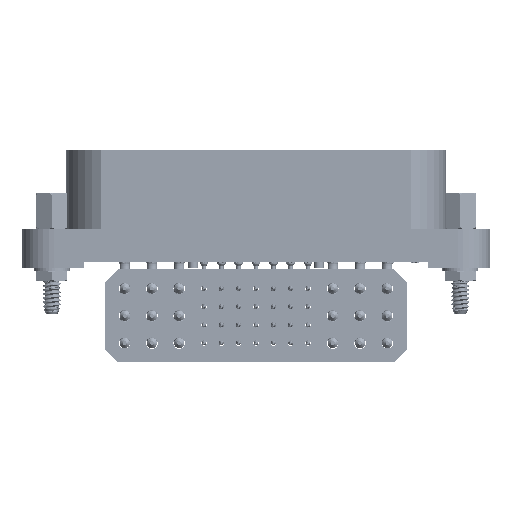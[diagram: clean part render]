
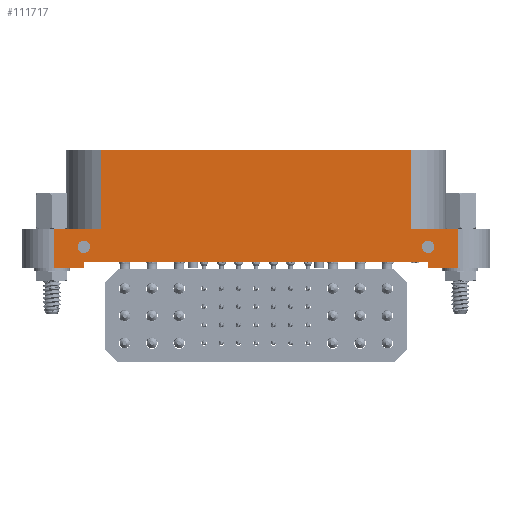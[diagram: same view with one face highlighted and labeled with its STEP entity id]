
A CAD part, front view. The second image highlights one B-rep face of the part: STEP entity #111717.
In plain terms, the highlighted planar face has unit normal (0, -1, 0).
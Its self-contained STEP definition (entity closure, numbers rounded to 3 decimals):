
#2147 = VERTEX_POINT ( 'NONE', #47684 ) ;
#2468 = EDGE_CURVE ( 'NONE', #82340, #2147, #64269, .T. ) ;
#2619 = DIRECTION ( 'NONE',  ( 0., -1., 0. ) ) ;
#6643 = CARTESIAN_POINT ( 'NONE',  ( -26.8, -8.395, -3.295 ) ) ;
#9011 = FACE_OUTER_BOUND ( 'NONE', #93805, .T. ) ;
#11453 = VERTEX_POINT ( 'NONE', #17099 ) ;
#11501 = VERTEX_POINT ( 'NONE', #142850 ) ;
#14539 = VERTEX_POINT ( 'NONE', #92914 ) ;
#14611 = EDGE_CURVE ( 'NONE', #143715, #14539, #138679, .T. ) ;
#17099 = CARTESIAN_POINT ( 'NONE',  ( -24.134, -8.395, 0.47 ) ) ;
#17186 = VECTOR ( 'NONE', #133257, 1000. ) ;
#17775 = EDGE_LOOP ( 'NONE', ( #134277, #126442 ) ) ;
#20823 = DIRECTION ( 'NONE',  ( 0., 0., -1. ) ) ;
#25656 = VECTOR ( 'NONE', #116259, 1000. ) ;
#26111 = EDGE_CURVE ( 'NONE', #11501, #11453, #161094, .T. ) ;
#27776 = CARTESIAN_POINT ( 'NONE',  ( -26.75, -8.395, 0. ) ) ;
#28505 = ORIENTED_EDGE ( 'NONE', *, *, #106404, .T. ) ;
#29656 = VERTEX_POINT ( 'NONE', #89713 ) ;
#33102 = ORIENTED_EDGE ( 'NONE', *, *, #181692, .T. ) ;
#35178 = DIRECTION ( 'NONE',  ( 0., 0., -1. ) ) ;
#35663 = ORIENTED_EDGE ( 'NONE', *, *, #115478, .F. ) ;
#36629 = ORIENTED_EDGE ( 'NONE', *, *, #26111, .T. ) ;
#39378 = CARTESIAN_POINT ( 'NONE',  ( 24.134, -8.395, 12.82 ) ) ;
#44529 = LINE ( 'NONE', #165458, #132818 ) ;
#45188 = CARTESIAN_POINT ( 'NONE',  ( 31.43, -8.395, 0.47 ) ) ;
#45453 = VERTEX_POINT ( 'NONE', #164191 ) ;
#47684 = CARTESIAN_POINT ( 'NONE',  ( 24.134, -8.395, 0.47 ) ) ;
#48964 = CARTESIAN_POINT ( 'NONE',  ( 26.75, -8.395, -5.69 ) ) ;
#49579 = LINE ( 'NONE', #95119, #160857 ) ;
#50027 = DIRECTION ( 'NONE',  ( 0., -1., 0. ) ) ;
#50066 = VERTEX_POINT ( 'NONE', #6643 ) ;
#51011 = CARTESIAN_POINT ( 'NONE',  ( -26.8, -8.395, -2.33 ) ) ;
#52207 = DIRECTION ( 'NONE',  ( 1., 0., 0. ) ) ;
#53179 = VECTOR ( 'NONE', #119889, 1000. ) ;
#53358 = VECTOR ( 'NONE', #185329, 1000. ) ;
#54207 = CIRCLE ( 'NONE', #174627, 0.965 ) ;
#57169 = ORIENTED_EDGE ( 'NONE', *, *, #134920, .F. ) ;
#58357 = CARTESIAN_POINT ( 'NONE',  ( 26.8, -8.395, -2.33 ) ) ;
#64269 = LINE ( 'NONE', #154469, #172172 ) ;
#64770 = PLANE ( 'NONE',  #146389 ) ;
#66185 = CARTESIAN_POINT ( 'NONE',  ( 36.43, -8.395, -5.69 ) ) ;
#67139 = DIRECTION ( 'NONE',  ( 1., 0., 0. ) ) ;
#70643 = AXIS2_PLACEMENT_3D ( 'NONE', #155204, #2619, #169074 ) ;
#73694 = ORIENTED_EDGE ( 'NONE', *, *, #191077, .F. ) ;
#74694 = VECTOR ( 'NONE', #67139, 1000. ) ;
#75060 = VERTEX_POINT ( 'NONE', #151173 ) ;
#79848 = VECTOR ( 'NONE', #126615, 1000. ) ;
#82340 = VERTEX_POINT ( 'NONE', #103277 ) ;
#83253 = FACE_BOUND ( 'NONE', #17775, .T. ) ;
#83453 = ORIENTED_EDGE ( 'NONE', *, *, #126288, .F. ) ;
#84168 = CARTESIAN_POINT ( 'NONE',  ( -26.75, -8.395, -5.69 ) ) ;
#84421 = VERTEX_POINT ( 'NONE', #159792 ) ;
#84853 = LINE ( 'NONE', #129488, #109197 ) ;
#85509 = CARTESIAN_POINT ( 'NONE',  ( 26.75, -8.395, 0. ) ) ;
#87542 = ORIENTED_EDGE ( 'NONE', *, *, #156294, .T. ) ;
#89713 = CARTESIAN_POINT ( 'NONE',  ( -26.8, -8.395, -1.365 ) ) ;
#92914 = CARTESIAN_POINT ( 'NONE',  ( 26.8, -8.395, -3.295 ) ) ;
#93679 = VERTEX_POINT ( 'NONE', #45188 ) ;
#93805 = EDGE_LOOP ( 'NONE', ( #139422, #172020, #73694, #153779, #57169, #36629, #83453, #28505, #189052, #113754, #33102, #87542 ) ) ;
#95119 = CARTESIAN_POINT ( 'NONE',  ( -31.43, -8.395, 0. ) ) ;
#101550 = CARTESIAN_POINT ( 'NONE',  ( -24.134, -8.395, 12.82 ) ) ;
#102322 = EDGE_CURVE ( 'NONE', #75060, #133184, #184198, .T. ) ;
#103152 = CARTESIAN_POINT ( 'NONE',  ( 36.43, -8.395, -5.69 ) ) ;
#103277 = CARTESIAN_POINT ( 'NONE',  ( 24.134, -8.395, 12.82 ) ) ;
#106404 = EDGE_CURVE ( 'NONE', #165895, #162198, #49579, .T. ) ;
#109062 = DIRECTION ( 'NONE',  ( 0., 0., -1. ) ) ;
#109197 = VECTOR ( 'NONE', #52207, 1000. ) ;
#110667 = CIRCLE ( 'NONE', #177064, 0.965 ) ;
#111717 = ADVANCED_FACE ( 'NONE', ( #170851, #83253, #9011 ), #64770, .F. ) ;
#113754 = ORIENTED_EDGE ( 'NONE', *, *, #121196, .T. ) ;
#114801 = LINE ( 'NONE', #129654, #143755 ) ;
#115005 = DIRECTION ( 'NONE',  ( 0., 1., 0. ) ) ;
#115478 = EDGE_CURVE ( 'NONE', #14539, #143715, #165764, .T. ) ;
#116259 = DIRECTION ( 'NONE',  ( 0., 0., -1. ) ) ;
#118812 = DIRECTION ( 'NONE',  ( 0., 0., -1. ) ) ;
#119889 = DIRECTION ( 'NONE',  ( 0., 0., 1. ) ) ;
#121196 = EDGE_CURVE ( 'NONE', #141730, #45453, #148671, .T. ) ;
#122582 = EDGE_CURVE ( 'NONE', #141730, #162198, #183402, .T. ) ;
#124696 = DIRECTION ( 'NONE',  ( 0., 0., -1. ) ) ;
#125967 = AXIS2_PLACEMENT_3D ( 'NONE', #58357, #134644, #118812 ) ;
#126288 = EDGE_CURVE ( 'NONE', #165895, #11453, #44529, .T. ) ;
#126442 = ORIENTED_EDGE ( 'NONE', *, *, #195075, .F. ) ;
#126615 = DIRECTION ( 'NONE',  ( -1., 0., 0. ) ) ;
#129488 = CARTESIAN_POINT ( 'NONE',  ( 0., -8.395, -4.67 ) ) ;
#129654 = CARTESIAN_POINT ( 'NONE',  ( 31.43, -8.395, 0. ) ) ;
#130882 = EDGE_CURVE ( 'NONE', #75060, #93679, #114801, .T. ) ;
#132818 = VECTOR ( 'NONE', #137586, 1000. ) ;
#133184 = VERTEX_POINT ( 'NONE', #48964 ) ;
#133257 = DIRECTION ( 'NONE',  ( 0., 0., -1. ) ) ;
#133258 = CARTESIAN_POINT ( 'NONE',  ( -31.43, -8.395, 0.47 ) ) ;
#134277 = ORIENTED_EDGE ( 'NONE', *, *, #141639, .F. ) ;
#134644 = DIRECTION ( 'NONE',  ( 0., -1., 0. ) ) ;
#134920 = EDGE_CURVE ( 'NONE', #11501, #82340, #141461, .T. ) ;
#135844 = DIRECTION ( 'NONE',  ( -1., 0., 0. ) ) ;
#137586 = DIRECTION ( 'NONE',  ( 1., 0., 0. ) ) ;
#138679 = CIRCLE ( 'NONE', #125967, 0.965 ) ;
#139422 = ORIENTED_EDGE ( 'NONE', *, *, #102322, .F. ) ;
#140808 = CARTESIAN_POINT ( 'NONE',  ( 26.8, -8.395, -1.365 ) ) ;
#141461 = LINE ( 'NONE', #39378, #74694 ) ;
#141639 = EDGE_CURVE ( 'NONE', #50066, #29656, #110667, .T. ) ;
#141700 = EDGE_LOOP ( 'NONE', ( #35663, #169782 ) ) ;
#141730 = VERTEX_POINT ( 'NONE', #84168 ) ;
#142850 = CARTESIAN_POINT ( 'NONE',  ( -24.134, -8.395, 12.82 ) ) ;
#143715 = VERTEX_POINT ( 'NONE', #140808 ) ;
#143739 = CARTESIAN_POINT ( 'NONE',  ( 0., -8.395, 0. ) ) ;
#143755 = VECTOR ( 'NONE', #173307, 1000. ) ;
#146389 = AXIS2_PLACEMENT_3D ( 'NONE', #143739, #115005, #185690 ) ;
#148671 = LINE ( 'NONE', #27776, #53179 ) ;
#151173 = CARTESIAN_POINT ( 'NONE',  ( 31.43, -8.395, -5.69 ) ) ;
#153779 = ORIENTED_EDGE ( 'NONE', *, *, #2468, .F. ) ;
#154469 = CARTESIAN_POINT ( 'NONE',  ( 24.134, -8.395, 12.82 ) ) ;
#155204 = CARTESIAN_POINT ( 'NONE',  ( 26.8, -8.395, -2.33 ) ) ;
#156294 = EDGE_CURVE ( 'NONE', #84421, #133184, #160909, .T. ) ;
#158053 = VECTOR ( 'NONE', #135844, 1000. ) ;
#158532 = LINE ( 'NONE', #189227, #53358 ) ;
#159792 = CARTESIAN_POINT ( 'NONE',  ( 26.75, -8.395, -4.67 ) ) ;
#160857 = VECTOR ( 'NONE', #20823, 1000. ) ;
#160909 = LINE ( 'NONE', #85509, #25656 ) ;
#161094 = LINE ( 'NONE', #101550, #17186 ) ;
#162198 = VERTEX_POINT ( 'NONE', #193418 ) ;
#164191 = CARTESIAN_POINT ( 'NONE',  ( -26.75, -8.395, -4.67 ) ) ;
#165458 = CARTESIAN_POINT ( 'NONE',  ( -36.43, -8.395, 0.47 ) ) ;
#165764 = CIRCLE ( 'NONE', #70643, 0.965 ) ;
#165895 = VERTEX_POINT ( 'NONE', #133258 ) ;
#169074 = DIRECTION ( 'NONE',  ( 0., 0., -1. ) ) ;
#169782 = ORIENTED_EDGE ( 'NONE', *, *, #14611, .F. ) ;
#170851 = FACE_BOUND ( 'NONE', #141700, .T. ) ;
#172020 = ORIENTED_EDGE ( 'NONE', *, *, #130882, .T. ) ;
#172172 = VECTOR ( 'NONE', #124696, 1000. ) ;
#173307 = DIRECTION ( 'NONE',  ( 0., 0., 1. ) ) ;
#174627 = AXIS2_PLACEMENT_3D ( 'NONE', #51011, #50027, #35178 ) ;
#177064 = AXIS2_PLACEMENT_3D ( 'NONE', #184416, #183438, #109062 ) ;
#181692 = EDGE_CURVE ( 'NONE', #45453, #84421, #84853, .T. ) ;
#183402 = LINE ( 'NONE', #103152, #158053 ) ;
#183438 = DIRECTION ( 'NONE',  ( 0., -1., 0. ) ) ;
#184198 = LINE ( 'NONE', #66185, #79848 ) ;
#184416 = CARTESIAN_POINT ( 'NONE',  ( -26.8, -8.395, -2.33 ) ) ;
#185329 = DIRECTION ( 'NONE',  ( 1., 0., 0. ) ) ;
#185690 = DIRECTION ( 'NONE',  ( 0., 0., 1. ) ) ;
#189052 = ORIENTED_EDGE ( 'NONE', *, *, #122582, .F. ) ;
#189227 = CARTESIAN_POINT ( 'NONE',  ( -36.43, -8.395, 0.47 ) ) ;
#191077 = EDGE_CURVE ( 'NONE', #2147, #93679, #158532, .T. ) ;
#193418 = CARTESIAN_POINT ( 'NONE',  ( -31.43, -8.395, -5.69 ) ) ;
#195075 = EDGE_CURVE ( 'NONE', #29656, #50066, #54207, .T. ) ;
